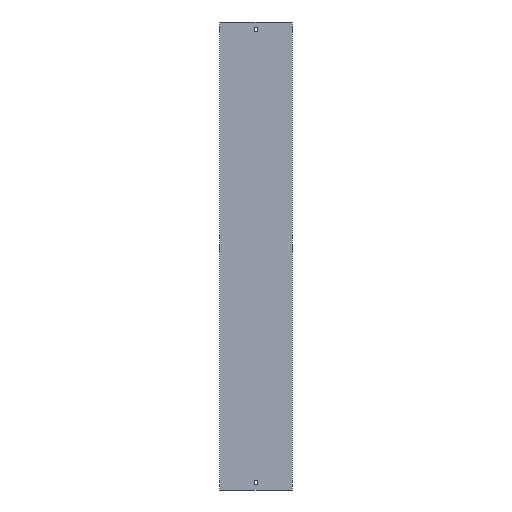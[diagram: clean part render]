
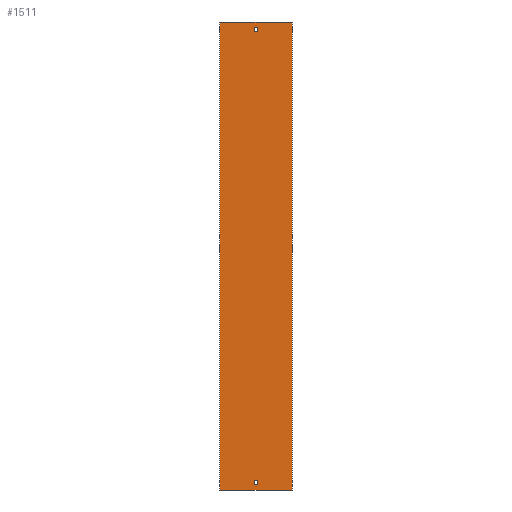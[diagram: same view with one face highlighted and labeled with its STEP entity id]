
A CAD part, front view. The second image highlights one B-rep face of the part: STEP entity #1511.
In plain terms, the highlighted planar face has unit normal (0, -1, 0).
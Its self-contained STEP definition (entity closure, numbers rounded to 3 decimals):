
#12 = ORIENTED_EDGE ( 'NONE', *, *, #953, .T. ) ;
#29 = VECTOR ( 'NONE', #997, 1000. ) ;
#42 = PLANE ( 'NONE',  #1679 ) ;
#50 = DIRECTION ( 'NONE',  ( 0., 1., 0. ) ) ;
#53 = ORIENTED_EDGE ( 'NONE', *, *, #1076, .F. ) ;
#63 = LINE ( 'NONE', #1330, #734 ) ;
#124 = EDGE_CURVE ( 'NONE', #1335, #533, #1640, .T. ) ;
#126 = CARTESIAN_POINT ( 'NONE',  ( -77., 0., 500. ) ) ;
#142 = CARTESIAN_POINT ( 'NONE',  ( -77., 0., -500. ) ) ;
#164 = ORIENTED_EDGE ( 'NONE', *, *, #1336, .T. ) ;
#173 = EDGE_LOOP ( 'NONE', ( #1077, #831, #546, #53 ) ) ;
#184 = FACE_BOUND ( 'NONE', #1389, .T. ) ;
#190 = VERTEX_POINT ( 'NONE', #300 ) ;
#195 = FACE_BOUND ( 'NONE', #173, .T. ) ;
#208 = LINE ( 'NONE', #980, #1458 ) ;
#243 = VECTOR ( 'NONE', #1167, 1000. ) ;
#251 = DIRECTION ( 'NONE',  ( 1., 0., 0. ) ) ;
#261 = CARTESIAN_POINT ( 'NONE',  ( -77., 0., -500. ) ) ;
#269 = LINE ( 'NONE', #1175, #949 ) ;
#300 = CARTESIAN_POINT ( 'NONE',  ( -3.25, 0., 488. ) ) ;
#320 = CARTESIAN_POINT ( 'NONE',  ( -3.25, 0., 488. ) ) ;
#322 = DIRECTION ( 'NONE',  ( 1., 0., 0. ) ) ;
#346 = LINE ( 'NONE', #864, #29 ) ;
#350 = EDGE_CURVE ( 'NONE', #1009, #1417, #208, .T. ) ;
#400 = EDGE_CURVE ( 'NONE', #1304, #856, #444, .T. ) ;
#420 = DIRECTION ( 'NONE',  ( -1., 0., 0. ) ) ;
#444 = LINE ( 'NONE', #845, #568 ) ;
#467 = CARTESIAN_POINT ( 'NONE',  ( 77., 0., -500. ) ) ;
#477 = LINE ( 'NONE', #320, #1031 ) ;
#478 = CARTESIAN_POINT ( 'NONE',  ( -3.25, 0., 479. ) ) ;
#508 = DIRECTION ( 'NONE',  ( 0., 0., -1. ) ) ;
#533 = VERTEX_POINT ( 'NONE', #900 ) ;
#541 = LINE ( 'NONE', #261, #243 ) ;
#546 = ORIENTED_EDGE ( 'NONE', *, *, #1583, .F. ) ;
#568 = VECTOR ( 'NONE', #955, 1000. ) ;
#602 = DIRECTION ( 'NONE',  ( -1., 0., 0. ) ) ;
#608 = CARTESIAN_POINT ( 'NONE',  ( -3.25, 0., -488. ) ) ;
#625 = VECTOR ( 'NONE', #602, 1000. ) ;
#630 = EDGE_LOOP ( 'NONE', ( #772, #1213, #934, #1287 ) ) ;
#633 = CARTESIAN_POINT ( 'NONE',  ( 3.25, 0., 488. ) ) ;
#663 = VERTEX_POINT ( 'NONE', #914 ) ;
#678 = VECTOR ( 'NONE', #1039, 1000. ) ;
#719 = CARTESIAN_POINT ( 'NONE',  ( 77., 0., 500. ) ) ;
#720 = LINE ( 'NONE', #1483, #947 ) ;
#734 = VECTOR ( 'NONE', #322, 1000. ) ;
#744 = CARTESIAN_POINT ( 'NONE',  ( -3.25, 0., -488. ) ) ;
#765 = EDGE_CURVE ( 'NONE', #1009, #1304, #720, .T. ) ;
#772 = ORIENTED_EDGE ( 'NONE', *, *, #1042, .T. ) ;
#776 = DIRECTION ( 'NONE',  ( 0., 0., -1. ) ) ;
#831 = ORIENTED_EDGE ( 'NONE', *, *, #1406, .F. ) ;
#845 = CARTESIAN_POINT ( 'NONE',  ( 77., 0., 500. ) ) ;
#853 = DIRECTION ( 'NONE',  ( 0., 0., -1. ) ) ;
#856 = VERTEX_POINT ( 'NONE', #467 ) ;
#864 = CARTESIAN_POINT ( 'NONE',  ( -3.25, 0., -488. ) ) ;
#889 = VERTEX_POINT ( 'NONE', #1372 ) ;
#897 = CARTESIAN_POINT ( 'NONE',  ( 3.25, 0., 488. ) ) ;
#900 = CARTESIAN_POINT ( 'NONE',  ( 3.25, 0., 479. ) ) ;
#906 = ORIENTED_EDGE ( 'NONE', *, *, #1140, .T. ) ;
#914 = CARTESIAN_POINT ( 'NONE',  ( 3.25, 0., -479. ) ) ;
#934 = ORIENTED_EDGE ( 'NONE', *, *, #765, .F. ) ;
#947 = VECTOR ( 'NONE', #1359, 1000. ) ;
#949 = VECTOR ( 'NONE', #508, 1000. ) ;
#953 = EDGE_CURVE ( 'NONE', #1363, #970, #346, .T. ) ;
#955 = DIRECTION ( 'NONE',  ( 0., 0., -1. ) ) ;
#970 = VERTEX_POINT ( 'NONE', #1575 ) ;
#980 = CARTESIAN_POINT ( 'NONE',  ( -77., 0., 500. ) ) ;
#997 = DIRECTION ( 'NONE',  ( 0., 0., 1. ) ) ;
#1009 = VERTEX_POINT ( 'NONE', #126 ) ;
#1022 = EDGE_CURVE ( 'NONE', #663, #889, #269, .T. ) ;
#1031 = VECTOR ( 'NONE', #1445, 1000. ) ;
#1039 = DIRECTION ( 'NONE',  ( 0., 0., 1. ) ) ;
#1042 = EDGE_CURVE ( 'NONE', #1417, #856, #541, .T. ) ;
#1076 = EDGE_CURVE ( 'NONE', #533, #1429, #1446, .T. ) ;
#1077 = ORIENTED_EDGE ( 'NONE', *, *, #124, .F. ) ;
#1139 = VECTOR ( 'NONE', #776, 1000. ) ;
#1140 = EDGE_CURVE ( 'NONE', #970, #663, #63, .T. ) ;
#1154 = CARTESIAN_POINT ( 'NONE',  ( -3.25, 0., 488. ) ) ;
#1167 = DIRECTION ( 'NONE',  ( 1., 0., 0. ) ) ;
#1175 = CARTESIAN_POINT ( 'NONE',  ( 3.25, 0., -488. ) ) ;
#1213 = ORIENTED_EDGE ( 'NONE', *, *, #400, .F. ) ;
#1241 = CARTESIAN_POINT ( 'NONE',  ( -3.25, 0., 479. ) ) ;
#1287 = ORIENTED_EDGE ( 'NONE', *, *, #350, .T. ) ;
#1304 = VERTEX_POINT ( 'NONE', #719 ) ;
#1330 = CARTESIAN_POINT ( 'NONE',  ( -3.25, 0., -479. ) ) ;
#1335 = VERTEX_POINT ( 'NONE', #1241 ) ;
#1336 = EDGE_CURVE ( 'NONE', #889, #1363, #1514, .T. ) ;
#1337 = CARTESIAN_POINT ( 'NONE',  ( -77., 0., 500. ) ) ;
#1359 = DIRECTION ( 'NONE',  ( 1., 0., 0. ) ) ;
#1363 = VERTEX_POINT ( 'NONE', #744 ) ;
#1372 = CARTESIAN_POINT ( 'NONE',  ( 3.25, 0., -488. ) ) ;
#1389 = EDGE_LOOP ( 'NONE', ( #12, #906, #1580, #164 ) ) ;
#1403 = VECTOR ( 'NONE', #251, 1000. ) ;
#1406 = EDGE_CURVE ( 'NONE', #190, #1335, #1549, .T. ) ;
#1417 = VERTEX_POINT ( 'NONE', #142 ) ;
#1429 = VERTEX_POINT ( 'NONE', #633 ) ;
#1445 = DIRECTION ( 'NONE',  ( -1., 0., 0. ) ) ;
#1446 = LINE ( 'NONE', #897, #678 ) ;
#1458 = VECTOR ( 'NONE', #853, 1000. ) ;
#1483 = CARTESIAN_POINT ( 'NONE',  ( -77., 0., 500. ) ) ;
#1511 = ADVANCED_FACE ( 'NONE', ( #1608, #195, #184 ), #42, .F. ) ;
#1514 = LINE ( 'NONE', #608, #625 ) ;
#1549 = LINE ( 'NONE', #1154, #1139 ) ;
#1575 = CARTESIAN_POINT ( 'NONE',  ( -3.25, 0., -479. ) ) ;
#1580 = ORIENTED_EDGE ( 'NONE', *, *, #1022, .T. ) ;
#1583 = EDGE_CURVE ( 'NONE', #1429, #190, #477, .T. ) ;
#1608 = FACE_OUTER_BOUND ( 'NONE', #630, .T. ) ;
#1640 = LINE ( 'NONE', #478, #1403 ) ;
#1679 = AXIS2_PLACEMENT_3D ( 'NONE', #1337, #50, #420 ) ;
